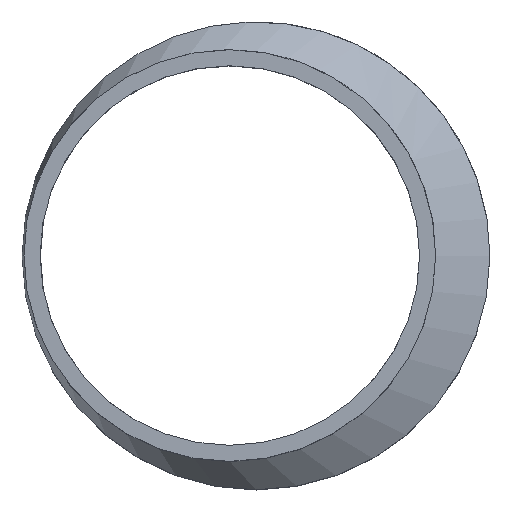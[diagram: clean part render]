
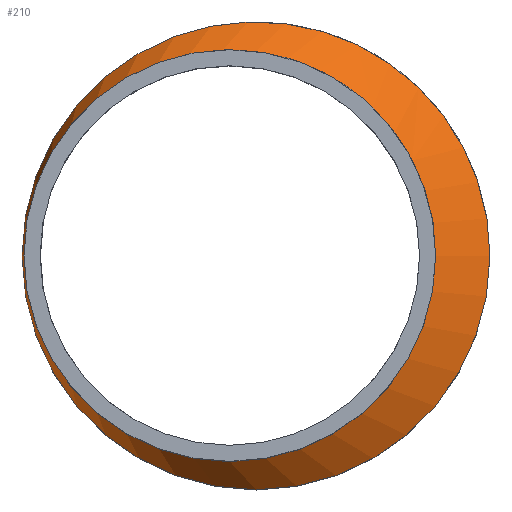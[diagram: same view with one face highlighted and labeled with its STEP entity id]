
A CAD part, top view. The second image highlights one B-rep face of the part: STEP entity #210.
In plain terms, the highlighted free-form (B-spline) face has degree [1, 2] with [2, 9] control points.
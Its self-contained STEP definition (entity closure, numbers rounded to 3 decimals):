
#15=B_SPLINE_CURVE_WITH_KNOTS($,1,(#401,#402),.UNSPECIFIED.,.F.,.F.,(2,
2),(-0.197,0.),.UNSPECIFIED.);
#17=(
BOUNDED_SURFACE()
B_SPLINE_SURFACE(1,2,((#379,#380,#381,#382,#383,#384,#385,#386,#387),(#388,
#389,#390,#391,#392,#393,#394,#395,#396)),.UNSPECIFIED.,.F.,.T.,.F.)
B_SPLINE_SURFACE_WITH_KNOTS((2,2),(3,2,2,2,3),(-0.873,0.576),
(-3.142,-1.571,0.,1.571,3.142),
 .UNSPECIFIED.)
GEOMETRIC_REPRESENTATION_ITEM()
RATIONAL_B_SPLINE_SURFACE(((1.,0.707,1.,0.707,1.,
0.707,1.,0.707,1.),(1.,0.707,1.,0.707,
1.,0.707,1.,0.707,1.)))
REPRESENTATION_ITEM($)
SURFACE()
);
#47=FACE_OUTER_BOUND($,#67,.T.);
#67=EDGE_LOOP($,(#167,#168,#169,#170,#171,#172));
#83=CIRCLE($,#231,62.5);
#84=CIRCLE($,#232,62.5);
#93=CIRCLE($,#243,55.);
#94=CIRCLE($,#244,55.);
#103=VERTEX_POINT($,#337);
#104=VERTEX_POINT($,#338);
#113=VERTEX_POINT($,#397);
#114=VERTEX_POINT($,#398);
#123=EDGE_CURVE($,#103,#104,#83,.T.);
#124=EDGE_CURVE($,#104,#103,#84,.T.);
#134=EDGE_CURVE($,#113,#114,#93,.T.);
#135=EDGE_CURVE($,#114,#113,#94,.T.);
#136=EDGE_CURVE($,#114,#104,#15,.T.);
#167=ORIENTED_EDGE($,*,*,#134,.F.);
#168=ORIENTED_EDGE($,*,*,#135,.F.);
#169=ORIENTED_EDGE($,*,*,#136,.T.);
#170=ORIENTED_EDGE($,*,*,#123,.F.);
#171=ORIENTED_EDGE($,*,*,#124,.F.);
#172=ORIENTED_EDGE($,*,*,#136,.F.);
#210=ADVANCED_FACE($,(#47),#17,.F.);
#231=AXIS2_PLACEMENT_3D($,#339,#278,#279);
#232=AXIS2_PLACEMENT_3D($,#340,#280,#281);
#243=AXIS2_PLACEMENT_3D($,#399,#302,#303);
#244=AXIS2_PLACEMENT_3D($,#400,#304,#305);
#278=DIRECTION('center_axis',(0.,0.,-1.));
#279=DIRECTION('ref_axis',(-1.,0.,0.));
#280=DIRECTION('center_axis',(0.,0.,-1.));
#281=DIRECTION('ref_axis',(-1.,0.,0.));
#302=DIRECTION('center_axis',(0.,0.,1.));
#303=DIRECTION('ref_axis',(-1.,0.,0.));
#304=DIRECTION('center_axis',(0.,0.,1.));
#305=DIRECTION('ref_axis',(-1.,0.,0.));
#337=CARTESIAN_POINT('',(62.5,0.,37.));
#338=CARTESIAN_POINT('',(-21.731,58.601,37.));
#339=CARTESIAN_POINT('Origin',(0.,0.,37.));
#340=CARTESIAN_POINT('Origin',(0.,0.,37.));
#379=CARTESIAN_POINT('Ctrl Pts',(-2.221,89.836,1.466));
#380=CARTESIAN_POINT('Ctrl Pts',(-66.942,89.836,-34.069));
#381=CARTESIAN_POINT('Ctrl Pts',(-66.942,0.,
-34.069));
#382=CARTESIAN_POINT('Ctrl Pts',(-66.942,-89.836,-34.069));
#383=CARTESIAN_POINT('Ctrl Pts',(-2.221,-89.836,1.466));
#384=CARTESIAN_POINT('Ctrl Pts',(62.5,-89.836,37.));
#385=CARTESIAN_POINT('Ctrl Pts',(62.5,0.,37.));
#386=CARTESIAN_POINT('Ctrl Pts',(62.5,89.836,37.));
#387=CARTESIAN_POINT('Ctrl Pts',(-2.221,89.836,1.466));
#388=CARTESIAN_POINT('Ctrl Pts',(-34.599,37.998,60.438));
#389=CARTESIAN_POINT('Ctrl Pts',(-61.974,37.998,45.408));
#390=CARTESIAN_POINT('Ctrl Pts',(-61.974,0.,
45.408));
#391=CARTESIAN_POINT('Ctrl Pts',(-61.974,-37.998,45.408));
#392=CARTESIAN_POINT('Ctrl Pts',(-34.599,-37.998,60.438));
#393=CARTESIAN_POINT('Ctrl Pts',(-7.224,-37.998,75.468));
#394=CARTESIAN_POINT('Ctrl Pts',(-7.224,0.,
75.468));
#395=CARTESIAN_POINT('Ctrl Pts',(-7.224,37.998,75.468));
#396=CARTESIAN_POINT('Ctrl Pts',(-34.599,37.998,60.438));
#397=CARTESIAN_POINT('',(48.,0.,45.));
#398=CARTESIAN_POINT('',(-26.123,51.569,45.));
#399=CARTESIAN_POINT('Origin',(-7.,0.,45.));
#400=CARTESIAN_POINT('Origin',(-7.,0.,45.));
#401=CARTESIAN_POINT('Ctrl Pts',(-26.123,51.569,45.));
#402=CARTESIAN_POINT('Ctrl Pts',(-21.731,58.601,37.));
